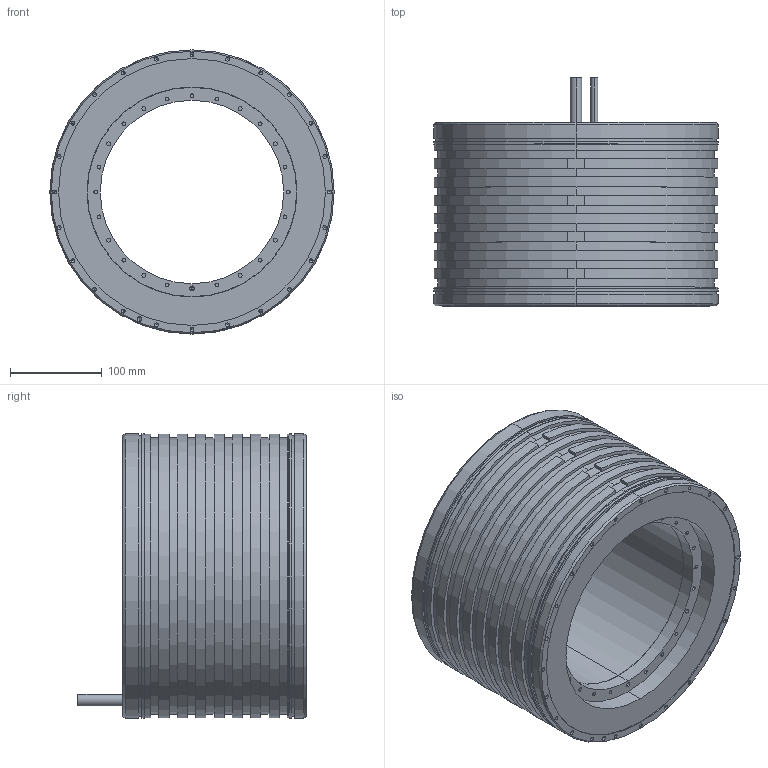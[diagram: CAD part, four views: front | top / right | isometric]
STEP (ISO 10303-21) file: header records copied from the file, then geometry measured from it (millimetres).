
FILE_DESCRIPTION (( 'STEP AP203' ), '1' );
FILE_NAME ('TM-2-7F.STEP', '2020-10-20T05:50:39', ( '' ), ( '' ), 'SwSTEP 2.0', 'SolidWorks 2015', '' );
FILE_SCHEMA (( 'CONFIG_CONTROL_DESIGN' ));
Length unit declared in the file: millimetre
Products named in the file (3): TM-2-7F; TM-2-7X_stator_TM-2-7F_stator; TM-2-7X_rotor_TM-2-7F_stator
Assembly tree (2 placements, depth 2):
  TM-2-7F
    TM-2-7X_stator_TM-2-7F_stator
    TM-2-7X_rotor_TM-2-7F_stator
Bounding box: 310 x 249 x 310 mm (x, y, z)
Volume: 7896953.9 mm3; surface area: 710871.8 mm2
Topology: 2 solids, 2 shells, 466 faces, 1068 edges, 612 vertices
Faces by surface type: cylinder 257, cone 112, plane 97
Entity records: 12763 total; most frequent: DIRECTION 2424, CARTESIAN_POINT 2047, ORIENTED_EDGE 1928, AXIS2_PLACEMENT_3D 989, EDGE_CURVE 964, VERTEX_POINT 612, EDGE_LOOP 580, CIRCLE 518
